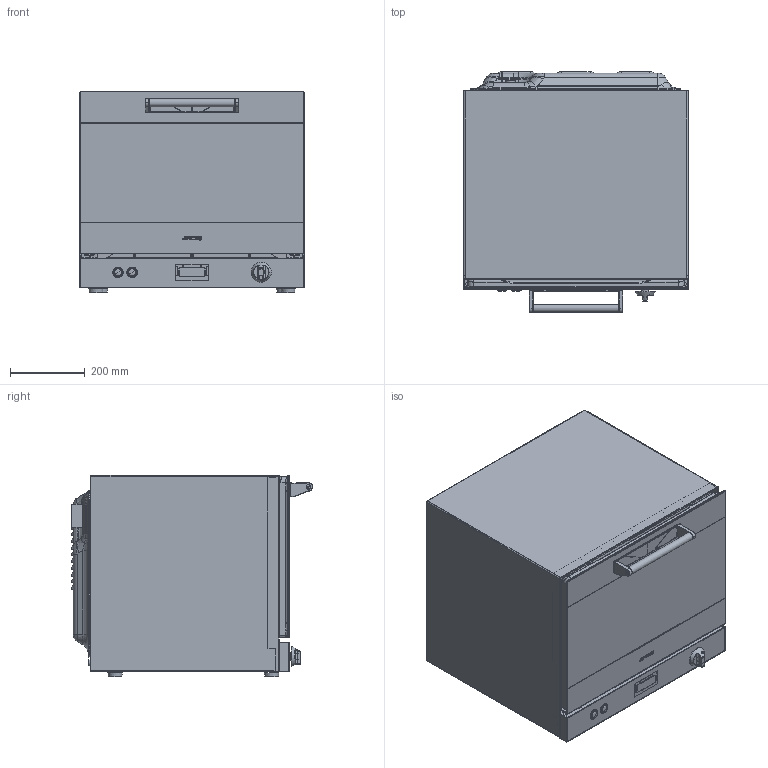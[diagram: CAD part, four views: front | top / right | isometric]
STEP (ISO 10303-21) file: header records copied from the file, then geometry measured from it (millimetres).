
FILE_DESCRIPTION(/* description */ (''),/* implementation_level */ '2;1');
FILE_NAME(/* name */ 'alfa43xe.stp',/* time_stamp */ '2014-04-16T15:06:25+02:00',/* author */ (''),/* organization */ (''),/* preprocessor_version */ 'ST-DEVELOPER v11',/* originating_system */ 'SIEMENS PLM Software NX 7.5',/* authorisation */ '');
FILE_SCHEMA (('AUTOMOTIVE_DESIGN { 1 0 10303 214 1 1 1 1 }'));
Products named in the file (1): pippo
Bounding box: 601.64 x 646.8 x 539.55 mm (x, y, z)
Volume: 2893936.6 mm3; surface area: 5005714 mm2
Topology: 25 solids, 29 shells, 4318 faces, 10912 edges, 6554 vertices
Faces by surface type: cylinder 1579, plane 1409, torus 528, bspline 478, sphere 158, cone 155, extrusion 11
Full cylindrical faces by diameter (mm): 0.989 x2, 3 x3, 3.1 x2, 3.2 x35, 3.432 x1, 3.5 x6, 3.9 x1, 4 x7, 4.2 x12, 4.3 x2, 4.4 x3, 4.5 x43, 4.6 x6, 4.8 x13, 5 x12, 6 x2, 6.5 x2, 6.8 x3, 7 x5, 8 x4, 10 x5, 10.2 x2, 10.5 x1, 12 x6, 14 x1, 16 x1, 18 x1, 19.198 x2, 20 x4, 21 x1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
Entity records: 137344 total; most frequent: CARTESIAN_POINT 36314, DIRECTION 21742, ORIENTED_EDGE 20487, EDGE_CURVE 10254, AXIS2_PLACEMENT_3D 8445, VERTEX_POINT 6382, EDGE_LOOP 5082, VECTOR 4852
